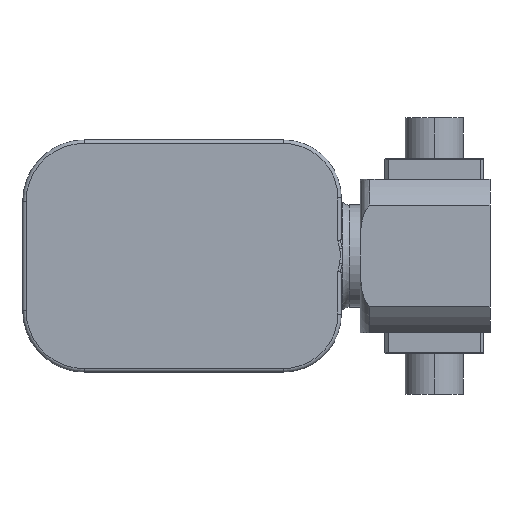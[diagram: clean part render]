
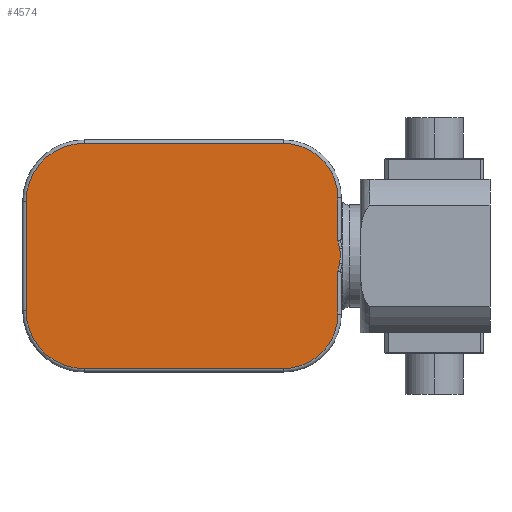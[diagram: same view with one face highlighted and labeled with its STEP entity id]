
A CAD part, left-side view. The second image highlights one B-rep face of the part: STEP entity #4574.
In plain terms, the highlighted planar face has unit normal (-1, 0, 0).
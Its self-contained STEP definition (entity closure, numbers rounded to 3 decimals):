
#8 = CARTESIAN_POINT ( 'NONE',  ( -15.92, 48.037, -2.213 ) ) ;
#137 = VECTOR ( 'NONE', #6519, 1000. ) ;
#226 = EDGE_CURVE ( 'NONE', #5002, #5630, #1672, .T. ) ;
#342 = AXIS2_PLACEMENT_3D ( 'NONE', #6598, #4446, #1171 ) ;
#399 = CARTESIAN_POINT ( 'NONE',  ( -15.92, 48.155, 2.965 ) ) ;
#487 = EDGE_CURVE ( 'NONE', #1656, #4775, #4318, .T. ) ;
#497 = VERTEX_POINT ( 'NONE', #3029 ) ;
#552 = B_SPLINE_CURVE_WITH_KNOTS ( 'NONE', 3,
 ( #8, #3053, #5097, #4070, #2243 ),
 .UNSPECIFIED., .F., .F.,
 ( 4, 1, 4 ),
 ( 0., 0.002, 0.004 ),
 .UNSPECIFIED. ) ;
#625 = DIRECTION ( 'NONE',  ( -1., 0., 0. ) ) ;
#908 = CARTESIAN_POINT ( 'NONE',  ( -15.92, 122.903, 33. ) ) ;
#1171 = DIRECTION ( 'NONE',  ( 0., 0., 1. ) ) ;
#1178 = VERTEX_POINT ( 'NONE', #5184 ) ;
#1228 = VERTEX_POINT ( 'NONE', #5293 ) ;
#1407 = CARTESIAN_POINT ( 'NONE',  ( -15.92, 122.903, -16. ) ) ;
#1490 = FACE_OUTER_BOUND ( 'NONE', #5223, .T. ) ;
#1654 = VERTEX_POINT ( 'NONE', #6410 ) ;
#1656 = VERTEX_POINT ( 'NONE', #6591 ) ;
#1672 = CIRCLE ( 'NONE', #6570, 17. ) ;
#1762 = CARTESIAN_POINT ( 'NONE',  ( -15.92, 48.33, -3.71 ) ) ;
#1766 = CARTESIAN_POINT ( 'NONE',  ( -15.92, 122.903, 16. ) ) ;
#1899 = CARTESIAN_POINT ( 'NONE',  ( -15.92, 48.553, -4.442 ) ) ;
#1949 = CARTESIAN_POINT ( 'NONE',  ( -15.92, 48.155, -2.964 ) ) ;
#1978 = CARTESIAN_POINT ( 'NONE',  ( -15.92, 48.037, -2.213 ) ) ;
#1988 = LINE ( 'NONE', #5277, #137 ) ;
#2082 = CARTESIAN_POINT ( 'NONE',  ( -15.92, 48.553, 4.442 ) ) ;
#2214 = LINE ( 'NONE', #908, #3673 ) ;
#2230 = DIRECTION ( 'NONE',  ( 0., 0., 1. ) ) ;
#2243 = CARTESIAN_POINT ( 'NONE',  ( -15.92, 48.037, 2.213 ) ) ;
#2251 = DIRECTION ( 'NONE',  ( -1., 0., 0. ) ) ;
#2270 = CARTESIAN_POINT ( 'NONE',  ( -15.92, 64.553, 17. ) ) ;
#2284 = EDGE_CURVE ( 'NONE', #1178, #1228, #4463, .T. ) ;
#2460 = B_SPLINE_CURVE_WITH_KNOTS ( 'NONE', 3,
 ( #1899, #1762, #1949, #1978 ),
 .UNSPECIFIED., .F., .F.,
 ( 4, 4 ),
 ( 0., 0.002 ),
 .UNSPECIFIED. ) ;
#2479 = CIRCLE ( 'NONE', #3048, 16. ) ;
#2489 = VERTEX_POINT ( 'NONE', #5340 ) ;
#2497 = DIRECTION ( 'NONE',  ( 0., -1., 0. ) ) ;
#2503 = ORIENTED_EDGE ( 'NONE', *, *, #226, .T. ) ;
#2560 = EDGE_CURVE ( 'NONE', #4744, #2489, #1988, .T. ) ;
#2643 = CARTESIAN_POINT ( 'NONE',  ( -15.92, 47.553, -33. ) ) ;
#2658 = CARTESIAN_POINT ( 'NONE',  ( -15.92, 64.553, -17. ) ) ;
#2850 = AXIS2_PLACEMENT_3D ( 'NONE', #1407, #625, #6795 ) ;
#2866 = EDGE_CURVE ( 'NONE', #2489, #1654, #2460, .T. ) ;
#2882 = CARTESIAN_POINT ( 'NONE',  ( -15.92, 48.553, -17. ) ) ;
#3029 = CARTESIAN_POINT ( 'NONE',  ( -15.92, 48.037, 2.213 ) ) ;
#3032 = B_SPLINE_CURVE_WITH_KNOTS ( 'NONE', 3,
 ( #4257, #399, #5335, #2082 ),
 .UNSPECIFIED., .F., .F.,
 ( 4, 4 ),
 ( 0.007, 0.009 ),
 .UNSPECIFIED. ) ;
#3034 = ORIENTED_EDGE ( 'NONE', *, *, #3302, .T. ) ;
#3048 = AXIS2_PLACEMENT_3D ( 'NONE', #2658, #6501, #3198 ) ;
#3053 = CARTESIAN_POINT ( 'NONE',  ( -15.92, 47.922, -1.475 ) ) ;
#3075 = DIRECTION ( 'NONE',  ( 0., 0., 1. ) ) ;
#3113 = CARTESIAN_POINT ( 'NONE',  ( -15.92, 48.553, -34. ) ) ;
#3159 = CARTESIAN_POINT ( 'NONE',  ( -15.92, 139.903, -34. ) ) ;
#3198 = DIRECTION ( 'NONE',  ( 0., 0., 1. ) ) ;
#3213 = ORIENTED_EDGE ( 'NONE', *, *, #2284, .T. ) ;
#3302 = EDGE_CURVE ( 'NONE', #5423, #1178, #5673, .T. ) ;
#3314 = PLANE ( 'NONE',  #342 ) ;
#3592 = DIRECTION ( 'NONE',  ( -1., 0., 0. ) ) ;
#3627 = ORIENTED_EDGE ( 'NONE', *, *, #4383, .T. ) ;
#3666 = VECTOR ( 'NONE', #3702, 1000. ) ;
#3673 = VECTOR ( 'NONE', #4207, 1000. ) ;
#3702 = DIRECTION ( 'NONE',  ( 0., 0., -1. ) ) ;
#3729 = EDGE_CURVE ( 'NONE', #4775, #6118, #3781, .T. ) ;
#3781 = CIRCLE ( 'NONE', #6044, 16. ) ;
#3817 = EDGE_CURVE ( 'NONE', #1654, #497, #552, .T. ) ;
#4070 = CARTESIAN_POINT ( 'NONE',  ( -15.92, 47.922, 1.475 ) ) ;
#4202 = CARTESIAN_POINT ( 'NONE',  ( -15.92, 122.903, 33. ) ) ;
#4207 = DIRECTION ( 'NONE',  ( 0., 1., 0. ) ) ;
#4257 = CARTESIAN_POINT ( 'NONE',  ( -15.92, 48.037, 2.213 ) ) ;
#4291 = VECTOR ( 'NONE', #2497, 1000. ) ;
#4318 = LINE ( 'NONE', #3113, #7050 ) ;
#4383 = EDGE_CURVE ( 'NONE', #1228, #4744, #2479, .T. ) ;
#4446 = DIRECTION ( 'NONE',  ( -1., 0., 0. ) ) ;
#4463 = LINE ( 'NONE', #2643, #4291 ) ;
#4566 = ORIENTED_EDGE ( 'NONE', *, *, #3729, .T. ) ;
#4574 = ADVANCED_FACE ( 'NONE', ( #1490 ), #3314, .T. ) ;
#4587 = CARTESIAN_POINT ( 'NONE',  ( -15.92, 48.553, 17. ) ) ;
#4744 = VERTEX_POINT ( 'NONE', #2882 ) ;
#4775 = VERTEX_POINT ( 'NONE', #4587 ) ;
#4856 = ORIENTED_EDGE ( 'NONE', *, *, #5406, .T. ) ;
#4911 = ORIENTED_EDGE ( 'NONE', *, *, #7004, .T. ) ;
#5002 = VERTEX_POINT ( 'NONE', #4202 ) ;
#5097 = CARTESIAN_POINT ( 'NONE',  ( -15.92, 47.782, 0. ) ) ;
#5119 = LINE ( 'NONE', #3159, #3666 ) ;
#5184 = CARTESIAN_POINT ( 'NONE',  ( -15.92, 122.903, -33. ) ) ;
#5223 = EDGE_LOOP ( 'NONE', ( #4856, #2503, #4911, #3034, #3213, #3627, #5857, #6496, #5865, #5989, #5741, #4566 ) ) ;
#5277 = CARTESIAN_POINT ( 'NONE',  ( -15.92, 48.553, -34. ) ) ;
#5293 = CARTESIAN_POINT ( 'NONE',  ( -15.92, 64.553, -33. ) ) ;
#5335 = CARTESIAN_POINT ( 'NONE',  ( -15.92, 48.329, 3.707 ) ) ;
#5340 = CARTESIAN_POINT ( 'NONE',  ( -15.92, 48.553, -4.442 ) ) ;
#5406 = EDGE_CURVE ( 'NONE', #6118, #5002, #2214, .T. ) ;
#5423 = VERTEX_POINT ( 'NONE', #6402 ) ;
#5500 = EDGE_CURVE ( 'NONE', #497, #1656, #3032, .T. ) ;
#5630 = VERTEX_POINT ( 'NONE', #5668 ) ;
#5668 = CARTESIAN_POINT ( 'NONE',  ( -15.92, 139.903, 16. ) ) ;
#5673 = CIRCLE ( 'NONE', #2850, 17. ) ;
#5741 = ORIENTED_EDGE ( 'NONE', *, *, #487, .T. ) ;
#5857 = ORIENTED_EDGE ( 'NONE', *, *, #2560, .T. ) ;
#5865 = ORIENTED_EDGE ( 'NONE', *, *, #3817, .T. ) ;
#5989 = ORIENTED_EDGE ( 'NONE', *, *, #5500, .T. ) ;
#6044 = AXIS2_PLACEMENT_3D ( 'NONE', #2270, #2251, #2230 ) ;
#6118 = VERTEX_POINT ( 'NONE', #7138 ) ;
#6222 = DIRECTION ( 'NONE',  ( 0., 0., 1. ) ) ;
#6402 = CARTESIAN_POINT ( 'NONE',  ( -15.92, 139.903, -16. ) ) ;
#6410 = CARTESIAN_POINT ( 'NONE',  ( -15.92, 48.037, -2.213 ) ) ;
#6496 = ORIENTED_EDGE ( 'NONE', *, *, #2866, .T. ) ;
#6501 = DIRECTION ( 'NONE',  ( -1., 0., 0. ) ) ;
#6519 = DIRECTION ( 'NONE',  ( 0., 0., 1. ) ) ;
#6570 = AXIS2_PLACEMENT_3D ( 'NONE', #1766, #3592, #6222 ) ;
#6591 = CARTESIAN_POINT ( 'NONE',  ( -15.92, 48.553, 4.442 ) ) ;
#6598 = CARTESIAN_POINT ( 'NONE',  ( -15.92, 47.553, -34. ) ) ;
#6795 = DIRECTION ( 'NONE',  ( 0., 0., 1. ) ) ;
#7004 = EDGE_CURVE ( 'NONE', #5630, #5423, #5119, .T. ) ;
#7050 = VECTOR ( 'NONE', #3075, 1000. ) ;
#7138 = CARTESIAN_POINT ( 'NONE',  ( -15.92, 64.553, 33. ) ) ;
